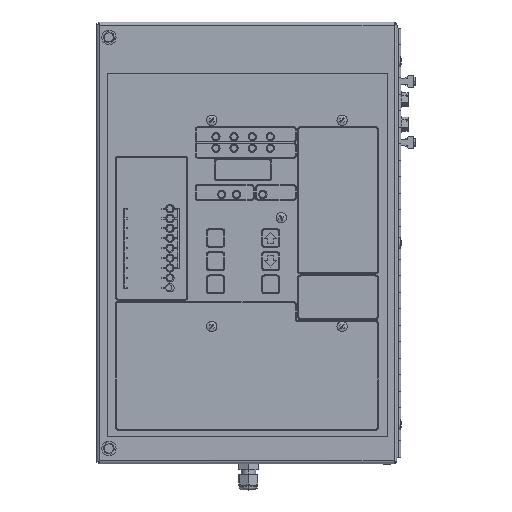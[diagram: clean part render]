
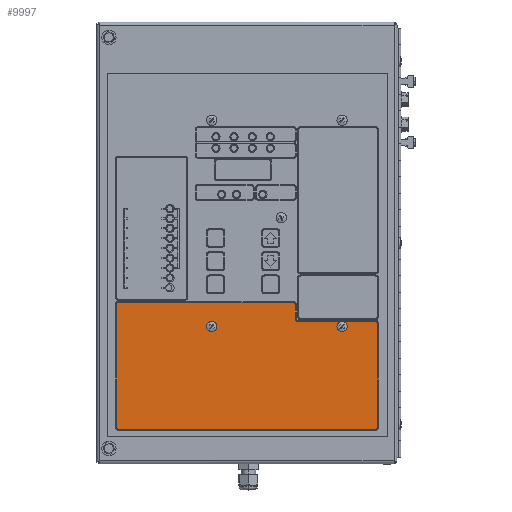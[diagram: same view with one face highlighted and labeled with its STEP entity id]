
A CAD part, top view. The second image highlights one B-rep face of the part: STEP entity #9997.
In plain terms, the highlighted planar face has unit normal (0, 0, -1).
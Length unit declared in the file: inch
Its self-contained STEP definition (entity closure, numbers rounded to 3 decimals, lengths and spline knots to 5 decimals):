
#206 = CARTESIAN_POINT ( 'NONE',  ( 8.35581, 0.97592, 2.8175 ) ) ;
#637 = ORIENTED_EDGE ( 'NONE', *, *, #35132, .F. ) ;
#983 = CIRCLE ( 'NONE', #64389, 0.0625 ) ;
#4856 = CARTESIAN_POINT ( 'NONE',  ( 6.01623, 4.24294, 2.8175 ) ) ;
#6761 = CIRCLE ( 'NONE', #63166, 0.0625 ) ;
#7147 = CARTESIAN_POINT ( 'NONE',  ( 8.72388, 4.8221, 2.8175 ) ) ;
#7350 = EDGE_CURVE ( 'NONE', #64323, #58801, #54251, .T. ) ;
#8411 = CARTESIAN_POINT ( 'NONE',  ( 0.56409, 1.03842, 2.8175 ) ) ;
#9370 = CARTESIAN_POINT ( 'NONE',  ( 8.72388, 4.24294, 2.8175 ) ) ;
#9526 = VERTEX_POINT ( 'NONE', #113997 ) ;
#9997 = ADVANCED_FACE ( 'NONE', ( #112973, #44856, #92105 ), #17459, .F. ) ;
#10176 = CARTESIAN_POINT ( 'NONE',  ( 0.56409, 4.8221, 2.8175 ) ) ;
#11574 = DIRECTION ( 'NONE',  ( 0., 0., 1. ) ) ;
#12620 = CARTESIAN_POINT ( 'NONE',  ( 5.85998, 4.8221, 2.8175 ) ) ;
#13898 = VERTEX_POINT ( 'NONE', #42193 ) ;
#16197 = DIRECTION ( 'NONE',  ( 0., 1., 0. ) ) ;
#16693 = VECTOR ( 'NONE', #16197, 39.37008 ) ;
#17351 = DIRECTION ( 'NONE',  ( 0., 1., 0. ) ) ;
#17459 = PLANE ( 'NONE',  #81074 ) ;
#19853 = EDGE_CURVE ( 'NONE', #9526, #107664, #86387, .T. ) ;
#20616 = CARTESIAN_POINT ( 'NONE',  ( 7.34112, 4.09375, 2.8175 ) ) ;
#21873 = ORIENTED_EDGE ( 'NONE', *, *, #91703, .F. ) ;
#24552 = ORIENTED_EDGE ( 'NONE', *, *, #89642, .F. ) ;
#24999 = CIRCLE ( 'NONE', #42562, 0.07 ) ;
#25346 = EDGE_LOOP ( 'NONE', ( #24552, #45528 ) ) ;
#26411 = DIRECTION ( 'NONE',  ( 0., -1., 0. ) ) ;
#26467 = CIRCLE ( 'NONE', #96034, 0.07 ) ;
#27320 = VERTEX_POINT ( 'NONE', #102035 ) ;
#29070 = CARTESIAN_POINT ( 'NONE',  ( 6.01623, 4.33669, 2.8175 ) ) ;
#29557 = DIRECTION ( 'NONE',  ( 0., -1., 0. ) ) ;
#29628 = DIRECTION ( 'NONE',  ( 0., 0., -1. ) ) ;
#30226 = CARTESIAN_POINT ( 'NONE',  ( 5.92248, 4.7596, 2.8175 ) ) ;
#30475 = VERTEX_POINT ( 'NONE', #73346 ) ;
#30944 = DIRECTION ( 'NONE',  ( 0., 0., -1. ) ) ;
#31179 = VECTOR ( 'NONE', #92806, 39.37008 ) ;
#32054 = VECTOR ( 'NONE', #108421, 39.37008 ) ;
#33557 = DIRECTION ( 'NONE',  ( 0., 0., 1. ) ) ;
#34420 = VERTEX_POINT ( 'NONE', #30226 ) ;
#35037 = VERTEX_POINT ( 'NONE', #4856 ) ;
#35132 = EDGE_CURVE ( 'NONE', #40894, #45238, #983, .T. ) ;
#36720 = VERTEX_POINT ( 'NONE', #206 ) ;
#36985 = EDGE_LOOP ( 'NONE', ( #59247, #75434 ) ) ;
#37682 = CARTESIAN_POINT ( 'NONE',  ( 5.85998, 4.7596, 2.8175 ) ) ;
#38026 = DIRECTION ( 'NONE',  ( 0., 1., 0. ) ) ;
#38357 = EDGE_CURVE ( 'NONE', #36720, #95074, #6761, .T. ) ;
#38541 = EDGE_CURVE ( 'NONE', #95074, #40894, #87354, .T. ) ;
#40894 = VERTEX_POINT ( 'NONE', #107015 ) ;
#42193 = CARTESIAN_POINT ( 'NONE',  ( 0.50159, 4.7596, 2.8175 ) ) ;
#42562 = AXIS2_PLACEMENT_3D ( 'NONE', #84140, #30944, #93085 ) ;
#44722 = CARTESIAN_POINT ( 'NONE',  ( 8.72388, 0.97592, 2.8175 ) ) ;
#44856 = FACE_BOUND ( 'NONE', #25346, .T. ) ;
#45238 = VERTEX_POINT ( 'NONE', #112237 ) ;
#45528 = ORIENTED_EDGE ( 'NONE', *, *, #7350, .F. ) ;
#46577 = CARTESIAN_POINT ( 'NONE',  ( 3.39112, 4.02375, 2.8175 ) ) ;
#46632 = DIRECTION ( 'NONE',  ( 0., 1., 0. ) ) ;
#47072 = CARTESIAN_POINT ( 'NONE',  ( 8.35581, 1.03842, 2.8175 ) ) ;
#50573 = DIRECTION ( 'NONE',  ( 0., 0., -1. ) ) ;
#53487 = ORIENTED_EDGE ( 'NONE', *, *, #59792, .F. ) ;
#53608 = VECTOR ( 'NONE', #86773, 39.37008 ) ;
#54251 = CIRCLE ( 'NONE', #62240, 0.07 ) ;
#54833 = LINE ( 'NONE', #83484, #31179 ) ;
#54869 = AXIS2_PLACEMENT_3D ( 'NONE', #8411, #70571, #17351 ) ;
#55703 = LINE ( 'NONE', #9370, #32054 ) ;
#56001 = DIRECTION ( 'NONE',  ( 0., 1., 0. ) ) ;
#56814 = ORIENTED_EDGE ( 'NONE', *, *, #108029, .F. ) ;
#58801 = VERTEX_POINT ( 'NONE', #46577 ) ;
#59247 = ORIENTED_EDGE ( 'NONE', *, *, #101513, .F. ) ;
#59606 = VERTEX_POINT ( 'NONE', #10176 ) ;
#59792 = EDGE_CURVE ( 'NONE', #45238, #35037, #55703, .T. ) ;
#59832 = EDGE_CURVE ( 'NONE', #73428, #27320, #26467, .T. ) ;
#60980 = VECTOR ( 'NONE', #104847, 39.37008 ) ;
#62240 = AXIS2_PLACEMENT_3D ( 'NONE', #103777, #50573, #112699 ) ;
#63166 = AXIS2_PLACEMENT_3D ( 'NONE', #47072, #109201, #56001 ) ;
#63926 = ORIENTED_EDGE ( 'NONE', *, *, #76345, .F. ) ;
#63987 = EDGE_CURVE ( 'NONE', #100096, #59606, #100834, .T. ) ;
#64323 = VERTEX_POINT ( 'NONE', #101069 ) ;
#64389 = AXIS2_PLACEMENT_3D ( 'NONE', #86766, #33557, #95707 ) ;
#64592 = EDGE_CURVE ( 'NONE', #13898, #9526, #54833, .T. ) ;
#64854 = CARTESIAN_POINT ( 'NONE',  ( 0.56409, 4.7596, 2.8175 ) ) ;
#65231 = CIRCLE ( 'NONE', #79473, 0.07 ) ;
#65509 = LINE ( 'NONE', #44722, #71006 ) ;
#68145 = EDGE_CURVE ( 'NONE', #35037, #30475, #82369, .T. ) ;
#69057 = ORIENTED_EDGE ( 'NONE', *, *, #63987, .F. ) ;
#69461 = CARTESIAN_POINT ( 'NONE',  ( 5.92248, 0.77237, 2.8175 ) ) ;
#70571 = DIRECTION ( 'NONE',  ( 0., 0., 1. ) ) ;
#71006 = VECTOR ( 'NONE', #106877, 39.37008 ) ;
#72489 = AXIS2_PLACEMENT_3D ( 'NONE', #37682, #99799, #46632 ) ;
#72532 = CIRCLE ( 'NONE', #107183, 0.0625 ) ;
#73346 = CARTESIAN_POINT ( 'NONE',  ( 5.92248, 4.33669, 2.8175 ) ) ;
#73428 = VERTEX_POINT ( 'NONE', #100365 ) ;
#73746 = DIRECTION ( 'NONE',  ( 0., 1., 0. ) ) ;
#75012 = CARTESIAN_POINT ( 'NONE',  ( 0.56409, 0.97592, 2.8175 ) ) ;
#75434 = ORIENTED_EDGE ( 'NONE', *, *, #59832, .F. ) ;
#75800 = ORIENTED_EDGE ( 'NONE', *, *, #64592, .F. ) ;
#76083 = ORIENTED_EDGE ( 'NONE', *, *, #38541, .F. ) ;
#76345 = EDGE_CURVE ( 'NONE', #30475, #34420, #105660, .T. ) ;
#79473 = AXIS2_PLACEMENT_3D ( 'NONE', #82808, #29628, #91770 ) ;
#79537 = ORIENTED_EDGE ( 'NONE', *, *, #38357, .F. ) ;
#79601 = DIRECTION ( 'NONE',  ( 0., 0., 1. ) ) ;
#81074 = AXIS2_PLACEMENT_3D ( 'NONE', #106041, #79601, #26411 ) ;
#81784 = EDGE_CURVE ( 'NONE', #107664, #36720, #65509, .T. ) ;
#82369 = CIRCLE ( 'NONE', #88738, 0.09375 ) ;
#82722 = DIRECTION ( 'NONE',  ( 0., 0., -1. ) ) ;
#82808 = CARTESIAN_POINT ( 'NONE',  ( 7.34112, 4.09375, 2.8175 ) ) ;
#83484 = CARTESIAN_POINT ( 'NONE',  ( 0.50159, 0.77237, 2.8175 ) ) ;
#84114 = EDGE_LOOP ( 'NONE', ( #56814, #69057, #21873, #63926, #86097, #53487, #637, #76083, #79537, #88448, #105893, #75800 ) ) ;
#84140 = CARTESIAN_POINT ( 'NONE',  ( 3.39112, 4.09375, 2.8175 ) ) ;
#86097 = ORIENTED_EDGE ( 'NONE', *, *, #68145, .F. ) ;
#86387 = CIRCLE ( 'NONE', #54869, 0.0625 ) ;
#86766 = CARTESIAN_POINT ( 'NONE',  ( 8.35581, 4.18044, 2.8175 ) ) ;
#86773 = DIRECTION ( 'NONE',  ( -1., 0., 0. ) ) ;
#87354 = LINE ( 'NONE', #95886, #60980 ) ;
#88448 = ORIENTED_EDGE ( 'NONE', *, *, #81784, .F. ) ;
#88738 = AXIS2_PLACEMENT_3D ( 'NONE', #29070, #91200, #38026 ) ;
#89642 = EDGE_CURVE ( 'NONE', #58801, #64323, #24999, .T. ) ;
#91200 = DIRECTION ( 'NONE',  ( 0., 0., -1. ) ) ;
#91703 = EDGE_CURVE ( 'NONE', #34420, #100096, #95416, .T. ) ;
#91770 = DIRECTION ( 'NONE',  ( 0., -1., 0. ) ) ;
#92105 = FACE_OUTER_BOUND ( 'NONE', #84114, .T. ) ;
#92806 = DIRECTION ( 'NONE',  ( 0., -1., 0. ) ) ;
#93085 = DIRECTION ( 'NONE',  ( 0., -1., 0. ) ) ;
#95074 = VERTEX_POINT ( 'NONE', #97432 ) ;
#95416 = CIRCLE ( 'NONE', #72489, 0.0625 ) ;
#95707 = DIRECTION ( 'NONE',  ( 0., 1., 0. ) ) ;
#95886 = CARTESIAN_POINT ( 'NONE',  ( 8.41831, 0.77237, 2.8175 ) ) ;
#96034 = AXIS2_PLACEMENT_3D ( 'NONE', #20616, #82722, #29557 ) ;
#97432 = CARTESIAN_POINT ( 'NONE',  ( 8.41831, 1.03842, 2.8175 ) ) ;
#99799 = DIRECTION ( 'NONE',  ( 0., 0., 1. ) ) ;
#100096 = VERTEX_POINT ( 'NONE', #12620 ) ;
#100365 = CARTESIAN_POINT ( 'NONE',  ( 7.34112, 4.16375, 2.8175 ) ) ;
#100834 = LINE ( 'NONE', #7147, #53608 ) ;
#101069 = CARTESIAN_POINT ( 'NONE',  ( 3.39112, 4.16375, 2.8175 ) ) ;
#101513 = EDGE_CURVE ( 'NONE', #27320, #73428, #65231, .T. ) ;
#102035 = CARTESIAN_POINT ( 'NONE',  ( 7.34112, 4.02375, 2.8175 ) ) ;
#103777 = CARTESIAN_POINT ( 'NONE',  ( 3.39112, 4.09375, 2.8175 ) ) ;
#104847 = DIRECTION ( 'NONE',  ( 0., 1., 0. ) ) ;
#105660 = LINE ( 'NONE', #69461, #16693 ) ;
#105893 = ORIENTED_EDGE ( 'NONE', *, *, #19853, .F. ) ;
#106041 = CARTESIAN_POINT ( 'NONE',  ( 8.72388, 0.77237, 2.8175 ) ) ;
#106877 = DIRECTION ( 'NONE',  ( 1., 0., 0. ) ) ;
#107015 = CARTESIAN_POINT ( 'NONE',  ( 8.41831, 4.18044, 2.8175 ) ) ;
#107183 = AXIS2_PLACEMENT_3D ( 'NONE', #64854, #11574, #73746 ) ;
#107664 = VERTEX_POINT ( 'NONE', #75012 ) ;
#108029 = EDGE_CURVE ( 'NONE', #59606, #13898, #72532, .T. ) ;
#108421 = DIRECTION ( 'NONE',  ( -1., 0., 0. ) ) ;
#109201 = DIRECTION ( 'NONE',  ( 0., 0., 1. ) ) ;
#112237 = CARTESIAN_POINT ( 'NONE',  ( 8.35581, 4.24294, 2.8175 ) ) ;
#112699 = DIRECTION ( 'NONE',  ( 0., -1., 0. ) ) ;
#112973 = FACE_BOUND ( 'NONE', #36985, .T. ) ;
#113997 = CARTESIAN_POINT ( 'NONE',  ( 0.50159, 1.03842, 2.8175 ) ) ;
